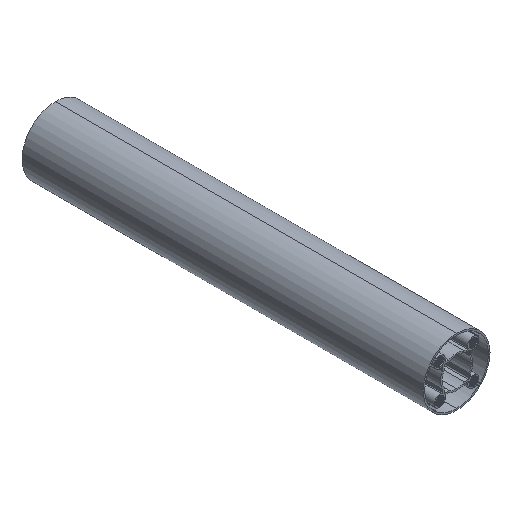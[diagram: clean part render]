
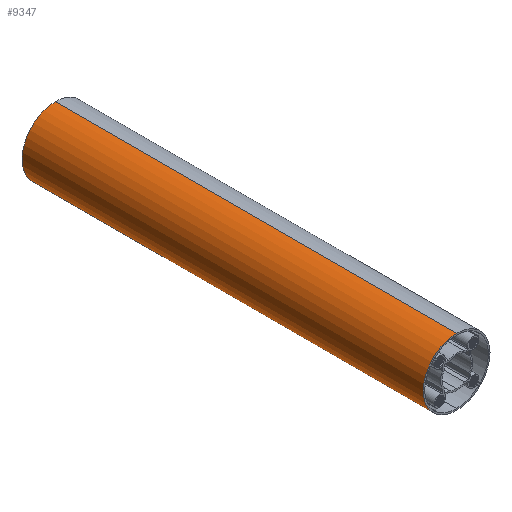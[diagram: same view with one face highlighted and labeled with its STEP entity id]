
A CAD part, isometric view. The second image highlights one B-rep face of the part: STEP entity #9347.
In plain terms, the highlighted cylindrical face has radius 15.975 mm (diameter 31.95 mm), a partial arc.
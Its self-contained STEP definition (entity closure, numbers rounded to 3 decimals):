
#1460 = CARTESIAN_POINT ( 'NONE',  ( 0., 0., -15.975 ) ) ;
#2370 = DIRECTION ( 'NONE',  ( 0., -1., 0. ) ) ;
#2389 = DIRECTION ( 'NONE',  ( 0., 0., 1. ) ) ;
#5418 = ORIENTED_EDGE ( 'NONE', *, *, #37653, .T. ) ;
#6212 = DIRECTION ( 'NONE',  ( 0., 1., 0. ) ) ;
#8577 = ORIENTED_EDGE ( 'NONE', *, *, #32550, .T. ) ;
#8645 = EDGE_CURVE ( 'NONE', #43214, #28689, #33004, .T. ) ;
#9056 = EDGE_LOOP ( 'NONE', ( #41809, #32728, #8577, #5418 ) ) ;
#9347 = ADVANCED_FACE ( 'NONE', ( #15030 ), #33530, .T. ) ;
#9821 = DIRECTION ( 'NONE',  ( 0., 1., 0. ) ) ;
#10123 = AXIS2_PLACEMENT_3D ( 'NONE', #37618, #9821, #2389 ) ;
#12871 = AXIS2_PLACEMENT_3D ( 'NONE', #29926, #6212, #46024 ) ;
#14411 = CARTESIAN_POINT ( 'NONE',  ( 0., 192., 0. ) ) ;
#15030 = FACE_OUTER_BOUND ( 'NONE', #9056, .T. ) ;
#15149 = VECTOR ( 'NONE', #2370, 1000. ) ;
#17547 = DIRECTION ( 'NONE',  ( 0., -1., 0. ) ) ;
#21337 = CARTESIAN_POINT ( 'NONE',  ( 0., 192., 15.975 ) ) ;
#22072 = CARTESIAN_POINT ( 'NONE',  ( 0., 192., -15.975 ) ) ;
#22983 = CARTESIAN_POINT ( 'NONE',  ( 0., 192., -15.975 ) ) ;
#23868 = VERTEX_POINT ( 'NONE', #22983 ) ;
#28689 = VERTEX_POINT ( 'NONE', #43200 ) ;
#29873 = VECTOR ( 'NONE', #17547, 1000. ) ;
#29926 = CARTESIAN_POINT ( 'NONE',  ( 0., 0., 0. ) ) ;
#32550 = EDGE_CURVE ( 'NONE', #23868, #39318, #42945, .T. ) ;
#32728 = ORIENTED_EDGE ( 'NONE', *, *, #39827, .F. ) ;
#33004 = LINE ( 'NONE', #48842, #29873 ) ;
#33530 = CYLINDRICAL_SURFACE ( 'NONE', #43863, 15.975 ) ;
#34248 = DIRECTION ( 'NONE',  ( 0., 0., -1. ) ) ;
#37618 = CARTESIAN_POINT ( 'NONE',  ( 0., 192., 0. ) ) ;
#37653 = EDGE_CURVE ( 'NONE', #39318, #28689, #47064, .T. ) ;
#39318 = VERTEX_POINT ( 'NONE', #1460 ) ;
#39827 = EDGE_CURVE ( 'NONE', #23868, #43214, #46961, .T. ) ;
#41809 = ORIENTED_EDGE ( 'NONE', *, *, #8645, .F. ) ;
#42945 = LINE ( 'NONE', #22072, #15149 ) ;
#43200 = CARTESIAN_POINT ( 'NONE',  ( 0., 0., 15.975 ) ) ;
#43214 = VERTEX_POINT ( 'NONE', #21337 ) ;
#43863 = AXIS2_PLACEMENT_3D ( 'NONE', #14411, #45858, #34248 ) ;
#45858 = DIRECTION ( 'NONE',  ( 0., -1., 0. ) ) ;
#46024 = DIRECTION ( 'NONE',  ( 0., 0., 1. ) ) ;
#46961 = CIRCLE ( 'NONE', #10123, 15.975 ) ;
#47064 = CIRCLE ( 'NONE', #12871, 15.975 ) ;
#48842 = CARTESIAN_POINT ( 'NONE',  ( 0., 192., 15.975 ) ) ;
